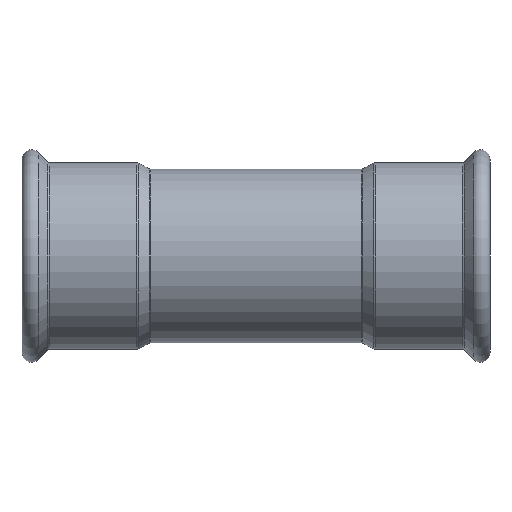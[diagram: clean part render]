
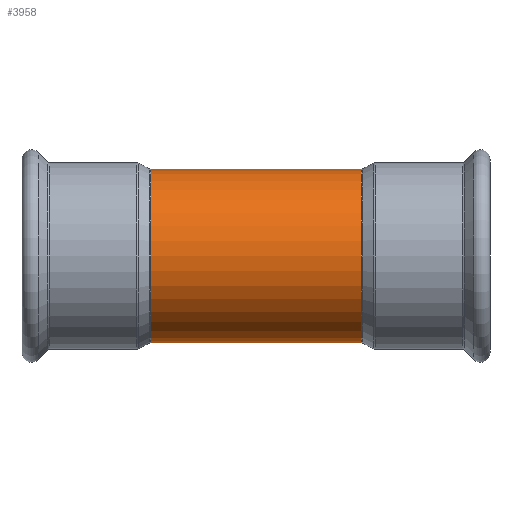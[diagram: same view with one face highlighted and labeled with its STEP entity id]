
A CAD part, front view. The second image highlights one B-rep face of the part: STEP entity #3958.
In plain terms, the highlighted cylindrical face has radius 26.7 mm (diameter 53.4 mm), a partial arc.
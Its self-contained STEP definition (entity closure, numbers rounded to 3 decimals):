
#44 = DIRECTION ( 'NONE',  ( -1., 0., 0. ) ) ;
#51 = VECTOR ( 'NONE', #44, 1000. ) ;
#87 = LINE ( 'NONE', #1669, #51 ) ;
#179 = EDGE_CURVE ( 'NONE', #657, #1516, #325, .T. ) ;
#284 = DIRECTION ( 'NONE',  ( -1., 0., 0. ) ) ;
#325 = CIRCLE ( 'NONE', #1106, 26.7 ) ;
#417 = AXIS2_PLACEMENT_3D ( 'NONE', #1605, #284, #2614 ) ;
#447 = EDGE_LOOP ( 'NONE', ( #3368, #3500, #3002, #2185 ) ) ;
#657 = VERTEX_POINT ( 'NONE', #3322 ) ;
#704 = VERTEX_POINT ( 'NONE', #2052 ) ;
#728 = CARTESIAN_POINT ( 'NONE',  ( -32.377, 0., -26.7 ) ) ;
#1106 = AXIS2_PLACEMENT_3D ( 'NONE', #2910, #1569, #2870 ) ;
#1196 = VERTEX_POINT ( 'NONE', #728 ) ;
#1221 = EDGE_CURVE ( 'NONE', #657, #1196, #87, .T. ) ;
#1516 = VERTEX_POINT ( 'NONE', #2242 ) ;
#1569 = DIRECTION ( 'NONE',  ( -1., 0., 0. ) ) ;
#1576 = CARTESIAN_POINT ( 'NONE',  ( -32.377, 0., 0. ) ) ;
#1605 = CARTESIAN_POINT ( 'NONE',  ( 0., 0., 0. ) ) ;
#1669 = CARTESIAN_POINT ( 'NONE',  ( 0., 0., -26.7 ) ) ;
#1936 = AXIS2_PLACEMENT_3D ( 'NONE', #1576, #2889, #3812 ) ;
#2020 = VECTOR ( 'NONE', #3503, 1000. ) ;
#2052 = CARTESIAN_POINT ( 'NONE',  ( -32.377, 0., 26.7 ) ) ;
#2178 = CARTESIAN_POINT ( 'NONE',  ( 0., 0., 26.7 ) ) ;
#2185 = ORIENTED_EDGE ( 'NONE', *, *, #3571, .T. ) ;
#2242 = CARTESIAN_POINT ( 'NONE',  ( 32.377, 0., 26.7 ) ) ;
#2338 = CIRCLE ( 'NONE', #1936, 26.7 ) ;
#2614 = DIRECTION ( 'NONE',  ( 0., 0., 1. ) ) ;
#2870 = DIRECTION ( 'NONE',  ( 0., 0., 1. ) ) ;
#2889 = DIRECTION ( 'NONE',  ( 1., 0., 0. ) ) ;
#2910 = CARTESIAN_POINT ( 'NONE',  ( 32.377, 0., 0. ) ) ;
#3002 = ORIENTED_EDGE ( 'NONE', *, *, #3049, .T. ) ;
#3049 = EDGE_CURVE ( 'NONE', #1516, #704, #3472, .T. ) ;
#3322 = CARTESIAN_POINT ( 'NONE',  ( 32.377, 0., -26.7 ) ) ;
#3368 = ORIENTED_EDGE ( 'NONE', *, *, #1221, .F. ) ;
#3472 = LINE ( 'NONE', #2178, #2020 ) ;
#3500 = ORIENTED_EDGE ( 'NONE', *, *, #179, .T. ) ;
#3503 = DIRECTION ( 'NONE',  ( -1., 0., 0. ) ) ;
#3571 = EDGE_CURVE ( 'NONE', #704, #1196, #2338, .T. ) ;
#3812 = DIRECTION ( 'NONE',  ( 0., 0., 1. ) ) ;
#3848 = CYLINDRICAL_SURFACE ( 'NONE', #417, 26.7 ) ;
#3958 = ADVANCED_FACE ( 'NONE', ( #4194 ), #3848, .T. ) ;
#4194 = FACE_OUTER_BOUND ( 'NONE', #447, .T. ) ;
